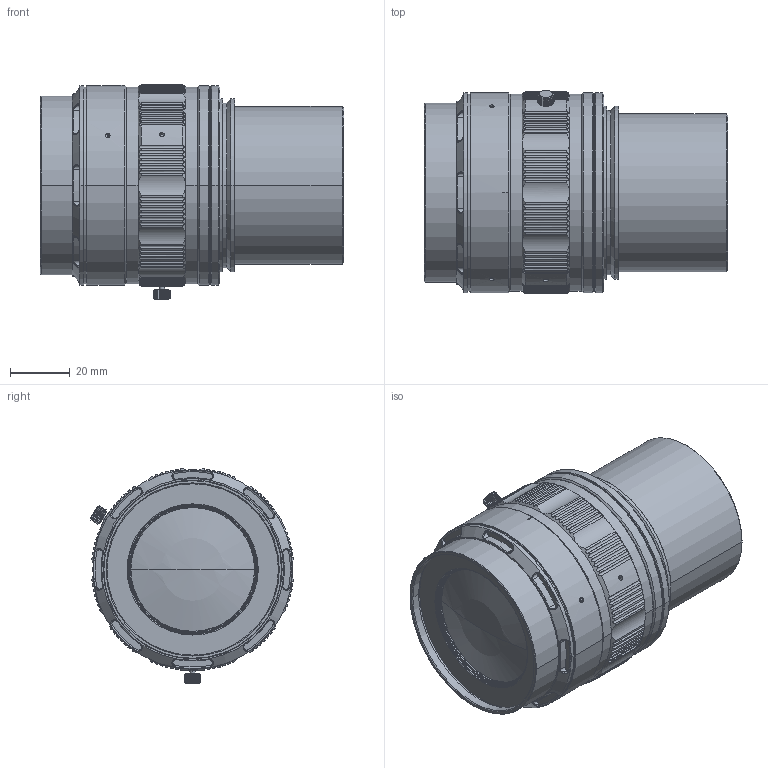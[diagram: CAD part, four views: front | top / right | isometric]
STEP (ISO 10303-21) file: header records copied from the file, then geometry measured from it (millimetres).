
FILE_DESCRIPTION((''),'2;1');
FILE_NAME('PRT0001','2024-06-20T10:29:26',('admin'),(''),'CREO PARAMETRIC BY PTC INC, 2020354','CREO PARAMETRIC BY PTC INC, 2020354','');
FILE_SCHEMA(('AUTOMOTIVE_DESIGN { 1 0 10303 214 1 1 1 1 }'));
Length unit declared in the file: millimetre
Products named in the file (1): PRT0001
Bounding box: 101.7 x 68.15 x 72.1 mm (x, y, z)
Volume: 275916.5 mm3; surface area: 30682.4 mm2
Topology: 1 solids, 6 shells, 770 faces, 1832 edges, 1110 vertices
Faces by surface type: cylinder 336, plane 208, cone 200, bspline 16, torus 6, sphere 4
Entity records: 27616 total; most frequent: CARTESIAN_POINT 10076, ORIENTED_EDGE 3656, DIRECTION 3566, EDGE_CURVE 1828, AXIS2_PLACEMENT_3D 1476, VERTEX_POINT 1110, EDGE_LOOP 812, FACE_OUTER_BOUND 770
